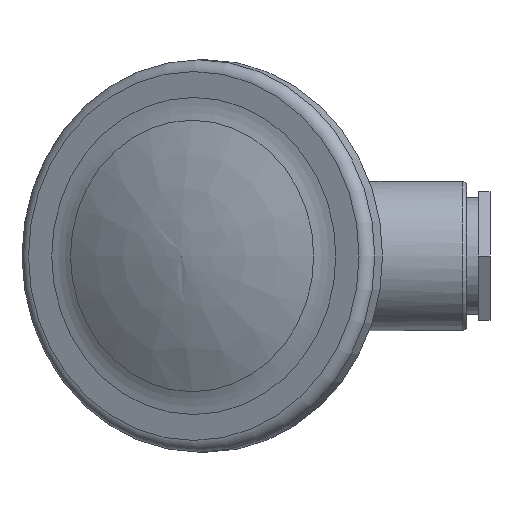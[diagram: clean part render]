
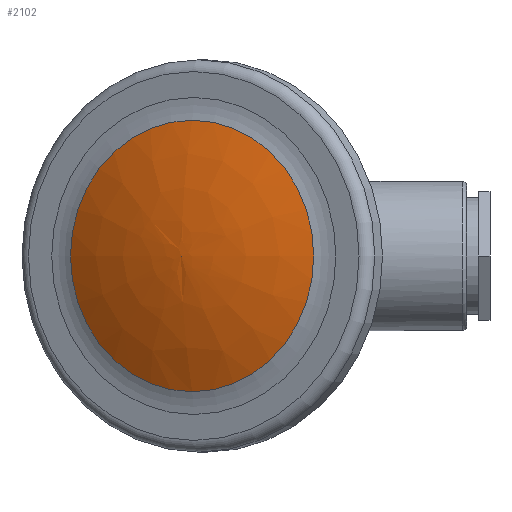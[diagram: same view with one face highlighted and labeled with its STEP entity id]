
A CAD part, left-side view. The second image highlights one B-rep face of the part: STEP entity #2102.
In plain terms, the highlighted free-form (B-spline) face has degree [3, 3] with [5, 19] control points.
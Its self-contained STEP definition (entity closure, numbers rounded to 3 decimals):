
#18=B_SPLINE_SURFACE_WITH_KNOTS('',3,3,((#5132,#5133,#5134,#5135,#5136,
#5137,#5138,#5139,#5140,#5141,#5142,#5143,#5144,#5145,#5146,#5147,#5148,
#5149,#5150),(#5151,#5152,#5153,#5154,#5155,#5156,#5157,#5158,#5159,#5160,
#5161,#5162,#5163,#5164,#5165,#5166,#5167,#5168,#5169),(#5170,#5171,#5172,
#5173,#5174,#5175,#5176,#5177,#5178,#5179,#5180,#5181,#5182,#5183,#5184,
#5185,#5186,#5187,#5188),(#5189,#5190,#5191,#5192,#5193,#5194,#5195,#5196,
#5197,#5198,#5199,#5200,#5201,#5202,#5203,#5204,#5205,#5206,#5207),(#5208,
#5209,#5210,#5211,#5212,#5213,#5214,#5215,#5216,#5217,#5218,#5219,#5220,
#5221,#5222,#5223,#5224,#5225,#5226)),.UNSPECIFIED.,.F.,.T.,.F.,(4,1,4),
(1,1,1,1,1,1,1,1,1,1,1,1,1,1,1,1,1,1,1,1,1,1,1),(0.,0.49,0.98),
(-1.178,-0.785,-0.393,0.,0.393,
0.785,1.178,1.571,1.963,2.356,
2.749,3.142,3.534,3.927,4.32,
4.712,5.105,5.498,5.89,6.283,
6.676,7.069,7.461),.UNSPECIFIED.);
#292=VERTEX_LOOP('',#1377);
#851=ORIENTED_EDGE('',*,*,#1166,.T.);
#1166=EDGE_CURVE('',#1378,#1378,#1510,.T.);
#1377=VERTEX_POINT('',#5227);
#1378=VERTEX_POINT('',#5229);
#1510=CIRCLE('',#2453,23.177);
#1691=EDGE_LOOP('',(#851));
#1894=FACE_BOUND('',#292,.T.);
#1895=FACE_BOUND('',#1691,.T.);
#2102=ADVANCED_FACE('',(#1894,#1895),#18,.F.);
#2453=AXIS2_PLACEMENT_3D('',#5228,#2965,#2966);
#2965=DIRECTION('',(-0.896,0.444,0.));
#2966=DIRECTION('',(-0.444,-0.896,0.));
#5132=CARTESIAN_POINT('',(-91.636,5.76,0.));
#5133=CARTESIAN_POINT('',(-91.636,5.76,0.));
#5134=CARTESIAN_POINT('',(-91.636,5.76,0.));
#5135=CARTESIAN_POINT('',(-91.636,5.76,0.));
#5136=CARTESIAN_POINT('',(-91.636,5.76,0.));
#5137=CARTESIAN_POINT('',(-91.636,5.76,0.));
#5138=CARTESIAN_POINT('',(-91.636,5.76,0.));
#5139=CARTESIAN_POINT('',(-91.636,5.76,0.));
#5140=CARTESIAN_POINT('',(-91.636,5.76,0.));
#5141=CARTESIAN_POINT('',(-91.636,5.76,0.));
#5142=CARTESIAN_POINT('',(-91.636,5.76,0.));
#5143=CARTESIAN_POINT('',(-91.636,5.76,0.));
#5144=CARTESIAN_POINT('',(-91.636,5.76,0.));
#5145=CARTESIAN_POINT('',(-91.636,5.76,0.));
#5146=CARTESIAN_POINT('',(-91.636,5.76,0.));
#5147=CARTESIAN_POINT('',(-91.636,5.76,0.));
#5148=CARTESIAN_POINT('',(-91.636,5.76,0.));
#5149=CARTESIAN_POINT('',(-91.636,5.76,0.));
#5150=CARTESIAN_POINT('',(-91.636,5.76,0.));
#5151=CARTESIAN_POINT('',(-92.215,4.328,-3.72));
#5152=CARTESIAN_POINT('',(-91.531,5.708,-4.026));
#5153=CARTESIAN_POINT('',(-90.848,7.089,-3.72));
#5154=CARTESIAN_POINT('',(-90.268,8.26,-2.847));
#5155=CARTESIAN_POINT('',(-89.881,9.042,-1.541));
#5156=CARTESIAN_POINT('',(-89.745,9.317,0.));
#5157=CARTESIAN_POINT('',(-89.881,9.042,1.541));
#5158=CARTESIAN_POINT('',(-90.268,8.26,2.847));
#5159=CARTESIAN_POINT('',(-90.848,7.089,3.72));
#5160=CARTESIAN_POINT('',(-91.531,5.708,4.026));
#5161=CARTESIAN_POINT('',(-92.215,4.328,3.72));
#5162=CARTESIAN_POINT('',(-92.794,3.157,2.847));
#5163=CARTESIAN_POINT('',(-93.181,2.375,1.541));
#5164=CARTESIAN_POINT('',(-93.317,2.1,0.));
#5165=CARTESIAN_POINT('',(-93.181,2.375,-1.541));
#5166=CARTESIAN_POINT('',(-92.794,3.157,-2.847));
#5167=CARTESIAN_POINT('',(-92.215,4.328,-3.72));
#5168=CARTESIAN_POINT('',(-91.531,5.708,-4.026));
#5169=CARTESIAN_POINT('',(-90.848,7.089,-3.72));
#5170=CARTESIAN_POINT('',(-92.843,1.188,-11.186));
#5171=CARTESIAN_POINT('',(-90.787,5.34,-12.107));
#5172=CARTESIAN_POINT('',(-88.732,9.493,-11.186));
#5173=CARTESIAN_POINT('',(-86.989,13.013,-8.561));
#5174=CARTESIAN_POINT('',(-85.825,15.365,-4.633));
#5175=CARTESIAN_POINT('',(-85.416,16.191,0.));
#5176=CARTESIAN_POINT('',(-85.825,15.365,4.633));
#5177=CARTESIAN_POINT('',(-86.989,13.013,8.561));
#5178=CARTESIAN_POINT('',(-88.732,9.493,11.186));
#5179=CARTESIAN_POINT('',(-90.787,5.34,12.107));
#5180=CARTESIAN_POINT('',(-92.843,1.188,11.186));
#5181=CARTESIAN_POINT('',(-94.586,-2.332,8.561));
#5182=CARTESIAN_POINT('',(-95.75,-4.684,4.633));
#5183=CARTESIAN_POINT('',(-96.159,-5.51,0.));
#5184=CARTESIAN_POINT('',(-95.75,-4.684,-4.633));
#5185=CARTESIAN_POINT('',(-94.586,-2.332,-8.561));
#5186=CARTESIAN_POINT('',(-92.843,1.188,-11.186));
#5187=CARTESIAN_POINT('',(-90.787,5.34,-12.107));
#5188=CARTESIAN_POINT('',(-88.732,9.493,-11.186));
#5189=CARTESIAN_POINT('',(-92.379,-2.399,-18.45));
#5190=CARTESIAN_POINT('',(-88.989,4.45,-19.97));
#5191=CARTESIAN_POINT('',(-85.598,11.299,-18.45));
#5192=CARTESIAN_POINT('',(-82.724,17.105,-14.121));
#5193=CARTESIAN_POINT('',(-80.803,20.984,-7.642));
#5194=CARTESIAN_POINT('',(-80.129,22.347,0.));
#5195=CARTESIAN_POINT('',(-80.803,20.984,7.642));
#5196=CARTESIAN_POINT('',(-82.724,17.105,14.121));
#5197=CARTESIAN_POINT('',(-85.598,11.299,18.45));
#5198=CARTESIAN_POINT('',(-88.989,4.45,19.97));
#5199=CARTESIAN_POINT('',(-92.379,-2.399,18.45));
#5200=CARTESIAN_POINT('',(-95.254,-8.205,14.121));
#5201=CARTESIAN_POINT('',(-97.174,-12.084,7.642));
#5202=CARTESIAN_POINT('',(-97.849,-13.447,0.));
#5203=CARTESIAN_POINT('',(-97.174,-12.084,-7.642));
#5204=CARTESIAN_POINT('',(-95.254,-8.205,-14.121));
#5205=CARTESIAN_POINT('',(-92.379,-2.399,-18.45));
#5206=CARTESIAN_POINT('',(-88.989,4.45,-19.97));
#5207=CARTESIAN_POINT('',(-85.598,11.299,-18.45));
#5208=CARTESIAN_POINT('',(-91.881,-4.273,-21.97));
#5209=CARTESIAN_POINT('',(-87.844,3.883,-23.78));
#5210=CARTESIAN_POINT('',(-83.806,12.039,-21.97));
#5211=CARTESIAN_POINT('',(-80.384,18.953,-16.815));
#5212=CARTESIAN_POINT('',(-78.096,23.572,-9.1));
#5213=CARTESIAN_POINT('',(-77.293,25.195,0.));
#5214=CARTESIAN_POINT('',(-78.096,23.572,9.1));
#5215=CARTESIAN_POINT('',(-80.384,18.953,16.815));
#5216=CARTESIAN_POINT('',(-83.806,12.039,21.97));
#5217=CARTESIAN_POINT('',(-87.844,3.883,23.78));
#5218=CARTESIAN_POINT('',(-91.881,-4.273,21.97));
#5219=CARTESIAN_POINT('',(-95.304,-11.187,16.815));
#5220=CARTESIAN_POINT('',(-97.591,-15.806,9.1));
#5221=CARTESIAN_POINT('',(-98.394,-17.429,0.));
#5222=CARTESIAN_POINT('',(-97.591,-15.806,-9.1));
#5223=CARTESIAN_POINT('',(-95.304,-11.187,-16.815));
#5224=CARTESIAN_POINT('',(-91.881,-4.273,-21.97));
#5225=CARTESIAN_POINT('',(-87.844,3.883,-23.78));
#5226=CARTESIAN_POINT('',(-83.806,12.039,-21.97));
#5227=CARTESIAN_POINT('',(-91.636,5.76,0.));
#5228=CARTESIAN_POINT('',(-87.844,3.883,0.));
#5229=CARTESIAN_POINT('',(-98.126,-16.888,0.));
